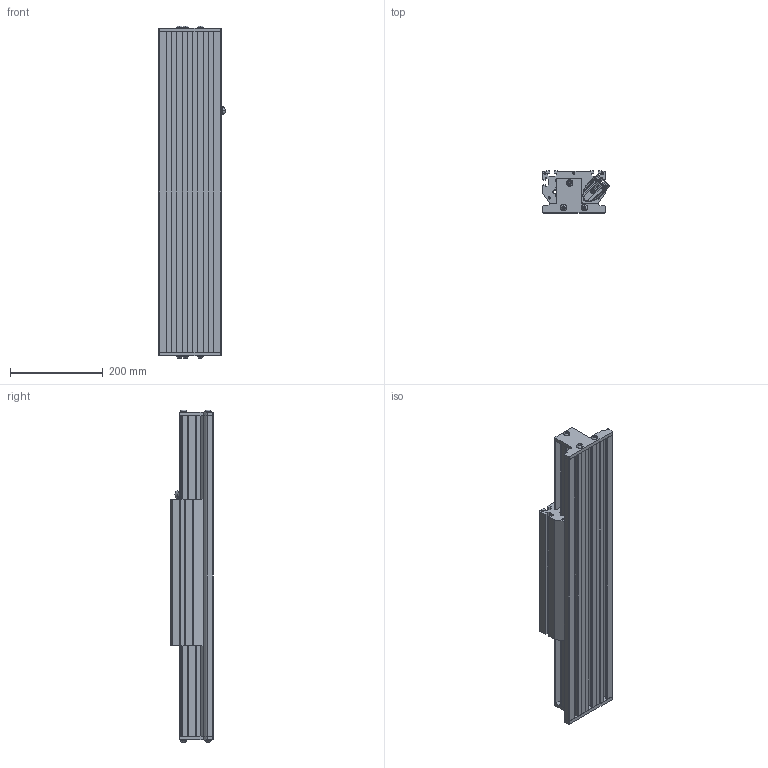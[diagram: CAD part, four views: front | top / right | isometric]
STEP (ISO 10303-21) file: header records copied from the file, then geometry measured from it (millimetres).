
FILE_DESCRIPTION (( 'STEP AP214' ), '1' );
FILE_NAME ('SINADRIVES Linear motor stage MLL20400XS-XX-1-0-ST-00-00708.STEP', '2015-07-06T12:14:48', ( 'Tecnico' ), ( '' ), 'SwSTEP 2.0', 'SolidWorks 2009', '' );
FILE_SCHEMA (( 'AUTOMOTIVE_DESIGN' ));
Length unit declared in the file: millimetre
Products named in the file (7): SINADRIVES PROFILE MLL2XXXX-0692; SINADRIVES CARRIAGE MLL20400XS-1; CARRIAGE MLL20400; Connector power+signal Y-tec 45; SINADRIVES ENDBLOCK MLL2; SINADRIVES ENDBLOCK MLL2-2; SINADRIVES Linear motor stage MLL20400XS-XX-1-0-ST-00-00708
Assembly tree (6 placements, depth 3):
  SINADRIVES Linear motor stage MLL20400XS-XX-1-0-ST-00-00708
    SINADRIVES ENDBLOCK MLL2-2
    SINADRIVES CARRIAGE MLL20400XS-1
      Connector power+signal Y-tec 45
      CARRIAGE MLL20400
    SINADRIVES ENDBLOCK MLL2
    SINADRIVES PROFILE MLL2XXXX-0692
Bounding box: 144.43 x 91 x 716.8 mm (x, y, z)
Volume: 4542756.4 mm3; surface area: 787115.6 mm2
Topology: 2 solids, 42 shells, 950 faces, 2640 edges, 1730 vertices
Faces by surface type: plane 445, cylinder 302, bspline 79, cone 70, torus 42, sphere 12
Entity records: 40587 total; most frequent: CARTESIAN_POINT 8656, ORIENTED_EDGE 5024, DIRECTION 4947, EDGE_CURVE 2622, AXIS2_PLACEMENT_3D 1781, VERTEX_POINT 1730, LINE 1385, VECTOR 1385
